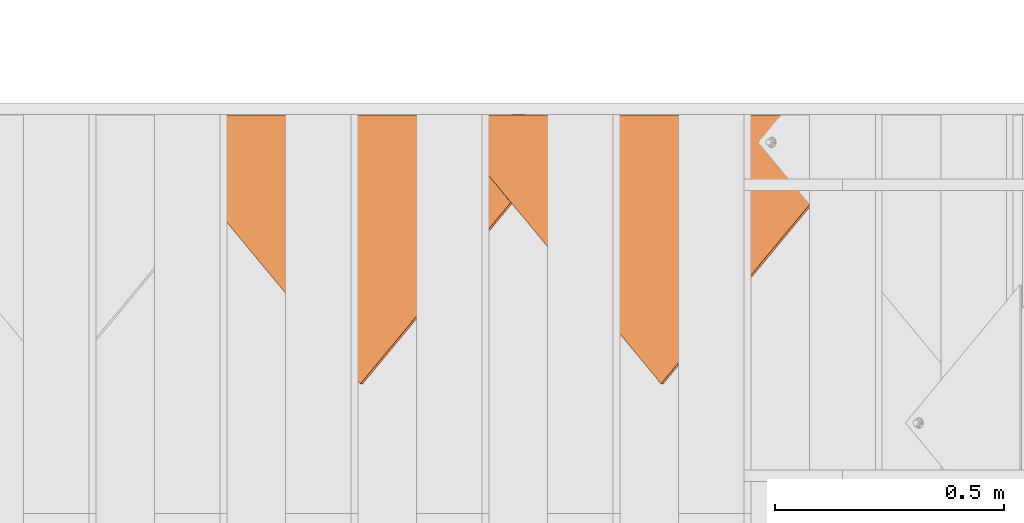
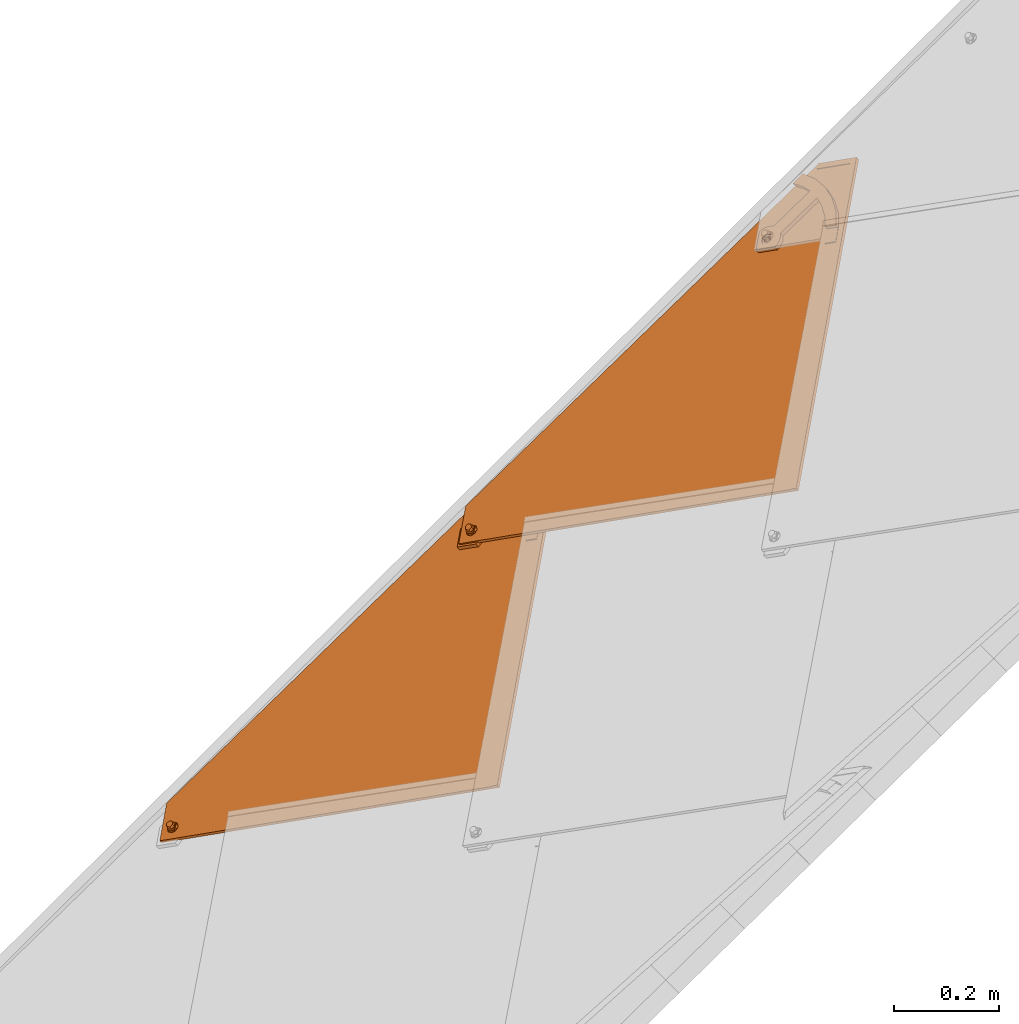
# One storey, part 84 of 133: 2 proxies.
"""IFC2X3 building model written with IfcOpenShell, lengths in millimetres."""

from ifc_helpers import new_model, entity, si_unit, converted_unit, derived_unit, direction, frame, origin, place, context, subcontext, project, spatial, faceted_brep, source, transform, mapped, material, material_list, type_object, type_shapes, element, save


model = new_model("IFC2X3")

# Units and contexts
model_context = context("Model", 3, precision=0.01, world=origin(), true_north=direction((6.12303176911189e-17, 1.0)))
body_context = subcontext(model_context, "Body", "Model", "MODEL_VIEW")
ifc_project = project(units=[si_unit("LENGTHUNIT", "METRE", prefix="MILLI"), si_unit("AREAUNIT", "SQUARE_METRE"), si_unit("VOLUMEUNIT", "CUBIC_METRE"), converted_unit("PLANEANGLEUNIT", "DEGREE", entity("IfcRatioMeasure", 0.0174532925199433), si_unit("PLANEANGLEUNIT", "RADIAN"), dimensions=[0, 0, 0, 0, 0, 0, 0]), si_unit("MASSUNIT", "GRAM", prefix="KILO"), derived_unit("MASSDENSITYUNIT", [(si_unit("MASSUNIT", "GRAM", prefix="KILO"), 1), (si_unit("LENGTHUNIT", "METRE"), -3)]), si_unit("TIMEUNIT", "SECOND"), si_unit("FREQUENCYUNIT", "HERTZ"), si_unit("THERMODYNAMICTEMPERATUREUNIT", "DEGREE_CELSIUS"), derived_unit("THERMALTRANSMITTANCEUNIT", [(si_unit("MASSUNIT", "GRAM", prefix="KILO"), 1), (si_unit("THERMODYNAMICTEMPERATUREUNIT", "KELVIN"), -1), (si_unit("TIMEUNIT", "SECOND"), -3)]), derived_unit("VOLUMETRICFLOWRATEUNIT", [(si_unit("LENGTHUNIT", "METRE"), 3), (si_unit("TIMEUNIT", "SECOND"), -1)]), si_unit("ELECTRICCURRENTUNIT", "AMPERE"), si_unit("ELECTRICVOLTAGEUNIT", "VOLT"), si_unit("POWERUNIT", "WATT"), si_unit("FORCEUNIT", "NEWTON", prefix="KILO"), si_unit("ILLUMINANCEUNIT", "LUX"), si_unit("LUMINOUSFLUXUNIT", "LUMEN"), si_unit("LUMINOUSINTENSITYUNIT", "CANDELA"), derived_unit("USERDEFINED", [(si_unit("MASSUNIT", "GRAM", prefix="KILO"), -1), (si_unit("LENGTHUNIT", "METRE"), -2), (si_unit("TIMEUNIT", "SECOND"), 3), (si_unit("LUMINOUSFLUXUNIT", "LUMEN"), 1)]), derived_unit("LINEARVELOCITYUNIT", [(si_unit("LENGTHUNIT", "METRE"), 1), (si_unit("TIMEUNIT", "SECOND"), -1)]), si_unit("PRESSUREUNIT", "PASCAL"), derived_unit("USERDEFINED", [(si_unit("LENGTHUNIT", "METRE"), -2), (si_unit("MASSUNIT", "GRAM", prefix="KILO"), 1), (si_unit("TIMEUNIT", "SECOND"), -2)])], contexts=[model_context])

# Site, building, storey
site_placement = place(None, origin())
site = spatial("IfcSite", under=ifc_project, at=site_placement, Name="Default", CompositionType="ELEMENT")
building_placement = place(site_placement, origin())
building = spatial("IfcBuilding", under=site, at=building_placement, CompositionType="ELEMENT")
storey_placement = place(building_placement, origin())
storey = spatial("IfcBuildingStorey", under=building, at=storey_placement, Name="Level 1", CompositionType="ELEMENT", Elevation=0.0)

# Proxies
ifc_material_1 = material(Name="Rubber - Sunstyle - Black")
ifc_material_2 = material(Name="Glass - Sunstyle - Tainted Black")
ifc_material_list_1 = material_list([ifc_material_1, ifc_material_2])
ifc_material_list_2 = material_list([ifc_material_1, ifc_material_2])
building_element_proxy_type = type_object("IfcBuildingElementProxyType", Name="Shingle Left - Black", PredefinedType="NOTDEFINED", material=ifc_material_list_2)
shared_shape = source(origin(), body_context, "Body", "Brep", [
    faceted_brep([(0.0, -484.792260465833, 4.00636906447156), (-5.77420283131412, -488.125530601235, 4.06219304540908), (-5.77420283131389, -487.757221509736, 26.0540623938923), (0.0, -484.423951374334, 25.9982384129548), (-5.77420283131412, -494.792070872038, 4.17384100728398), (-5.7742028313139, -494.42376178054, 26.1657103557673), (0.0, -498.12534100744, 4.22966498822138), (0.0, -497.757031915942, 26.2215343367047), (5.77420283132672, -494.792070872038, 4.17384100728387), (5.77420283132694, -494.42376178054, 26.1657103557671), (5.77420283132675, -488.125530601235, 4.06219304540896), (5.77420283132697, -487.757221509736, 26.0540623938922), (-8.60370416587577, -499.692989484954, 26.2539568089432), (0.0, -503.256260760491, 26.3136327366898), (-12.1674751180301, -491.090491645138, 26.1098863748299), (-8.60370416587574, -482.487993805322, 25.9658159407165), (0.0, -478.924722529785, 25.9061400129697), (8.60370416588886, -482.487993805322, 25.9658159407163), (12.1674751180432, -491.090491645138, 26.1098863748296), (8.60370416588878, -499.692989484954, 26.253956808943), (-11.324244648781, -488.795414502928, 28.4227283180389), (-9.75647455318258, -491.019476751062, 30.3502110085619), (0.0, -483.706401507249, 30.9829114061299), (0.0, -482.465903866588, 30.4025647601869), (0.0, -480.308353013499, 29.3931896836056), (0.0, -502.700216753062, 27.5886907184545), (0.0, -501.756640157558, 29.7523951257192), (0.0, -498.307264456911, 31.2274395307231), (0.0, -479.437758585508, 27.1991024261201), (-6.32324569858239, -494.657048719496, 31.1663074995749), (-6.32324569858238, -487.356617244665, 31.0440434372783), (11.3242446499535, -493.306834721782, 28.498283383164), (9.84888015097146, -492.093883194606, 30.2713428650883), (6.32324569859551, -487.356617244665, 31.0440434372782), (6.32324569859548, -494.657048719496, 31.1663074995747), (-6.32324569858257, -494.523020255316, 39.1691956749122), (0.0, -498.173235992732, 39.2303277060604), (0.0, -490.8728045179, 39.1080636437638), (-6.32324569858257, -487.222588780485, 39.0469316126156), (6.32324569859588, -494.523020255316, 39.1691956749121), (6.32324569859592, -487.222588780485, 39.0469316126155), (0.0, -483.572373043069, 38.9857995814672), (0.0, -491.458800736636, 4.11801702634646)], [[[0, 1, 2, 3]], [[1, 4, 5, 2]], [[4, 6, 7, 5]], [[6, 8, 9, 7]], [[8, 10, 11, 9]], [[10, 0, 3, 11]], [[12, 7, 13]], [[7, 12, 5]], [[14, 5, 12]], [[5, 14, 2]], [[15, 2, 14]], [[3, 2, 15]], [[15, 16, 3]], [[16, 17, 3]], [[11, 3, 17]], [[11, 17, 18]], [[9, 11, 18]], [[18, 19, 9]], [[7, 9, 19]], [[19, 13, 7]], [[20, 14, 12]], [[21, 22, 23, 24]], [[24, 20, 21]], [[25, 20, 12]], [[26, 27, 21]], [[15, 14, 20]], [[12, 13, 25]], [[20, 28, 15]], [[28, 20, 24]], [[21, 27, 29]], [[21, 29, 30]], [[26, 21, 20]], [[20, 25, 26]], [[15, 28, 16]], [[21, 30, 22]], [[31, 18, 17]], [[28, 31, 17]], [[32, 27, 26]], [[26, 31, 32]], [[26, 25, 31]], [[25, 19, 31]], [[17, 16, 28]], [[31, 19, 18]], [[24, 31, 28]], [[33, 34, 32]], [[23, 22, 33]], [[24, 32, 31]], [[27, 32, 34]], [[32, 23, 33]], [[19, 25, 13]], [[32, 24, 23]], [[35, 36, 37]], [[37, 38, 35]], [[36, 39, 37]], [[40, 37, 39]], [[37, 40, 41]], [[37, 41, 38]], [[42, 6, 4]], [[4, 1, 42]], [[1, 0, 42]], [[42, 8, 6]], [[0, 10, 42]], [[8, 42, 10]], [[22, 30, 38, 41]], [[30, 29, 35, 38]], [[29, 27, 36, 35]], [[27, 34, 39, 36]], [[34, 33, 40, 39]], [[33, 22, 41, 40]]]),
    faceted_brep([(0.0, 284.339364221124, 20.2838091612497), (0.0, 288.838732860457, 20.2084559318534), (-8.60370416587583, 287.902635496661, 20.224133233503), (8.60370416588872, 287.902635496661, 20.2241332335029), (6.64022859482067, 292.671933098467, 20.1442593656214), (12.1674751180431, 296.505133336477, 20.0800627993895), (6.64022859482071, 300.338333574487, 20.0158662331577), (8.6037041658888, 305.107631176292, 19.9359923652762), (0.0, 304.171533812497, 19.9516696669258), (0.0, 308.670902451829, 19.8763164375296), (-8.60370416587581, 305.107631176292, 19.9359923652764), (-6.64022859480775, 300.338333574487, 20.0158662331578), (-12.1674751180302, 296.505133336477, 20.0800627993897), (-6.64022859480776, 292.671933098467, 20.1442593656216), (-6.64022823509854, 300.070410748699, 4.01810959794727), (0.0, 303.90361077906, 3.95391303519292), (-6.64022823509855, 292.404010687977, 4.14650272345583), (0.0, 288.570810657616, 4.21069928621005), (6.64022823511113, 292.404010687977, 4.1465027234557), (6.64022823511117, 300.070410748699, 4.01810959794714), (-8.603704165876, 287.634712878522, 4.22637659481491), (0.0, 284.071441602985, 4.28605252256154), (-12.1674751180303, 296.237210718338, 4.08230616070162), (-8.60370416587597, 304.839708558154, 3.93823572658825), (0.0, 308.402979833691, 3.87855979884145), (8.60370416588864, 304.839708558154, 3.93823572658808), (12.1674751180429, 296.237210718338, 4.08230616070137), (8.60370416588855, 287.634712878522, 4.22637659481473)], [[[0, 1, 2]], [[1, 0, 3]], [[3, 4, 1]], [[4, 3, 5]], [[6, 4, 5]], [[5, 7, 6]], [[7, 8, 6]], [[8, 7, 9]], [[8, 9, 10]], [[10, 11, 8]], [[12, 11, 10]], [[2, 13, 12]], [[12, 13, 11]], [[13, 2, 1]], [[8, 11, 14, 15]], [[11, 13, 16, 14]], [[13, 1, 17, 16]], [[1, 4, 18, 17]], [[4, 6, 19, 18]], [[6, 8, 15, 19]], [[20, 17, 21]], [[17, 20, 16]], [[22, 16, 20]], [[14, 16, 22]], [[23, 14, 22]], [[15, 14, 23]], [[23, 24, 15]], [[24, 25, 15]], [[19, 15, 25]], [[19, 25, 26]], [[26, 18, 19]], [[26, 27, 18]], [[17, 18, 27]], [[27, 21, 17]], [[24, 23, 10, 9]], [[10, 23, 22, 12]], [[20, 21, 0, 2]], [[20, 2, 12, 22]], [[21, 27, 3, 0]], [[3, 27, 26, 5]], [[25, 24, 9, 7]], [[25, 7, 5, 26]]]),
    faceted_brep([(518.309865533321, -8.21171787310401, 16.4411500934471), (526.794551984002, 0.272968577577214, 16.299052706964), (526.794551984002, 0.298086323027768, 17.798842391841), (518.309865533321, -8.18660012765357, 17.9409397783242), (0.0, 509.952813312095, 7.76318349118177), (-51.6190674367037, 458.348219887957, 8.62743202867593), (-60.1037538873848, 466.832906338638, 8.48533464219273), (0.0, 526.919807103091, 7.47902856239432), (0.0, 526.944924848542, 8.97881824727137), (-60.1037538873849, 466.858024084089, 9.98512432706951), (-51.6190674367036, 458.373337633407, 10.1272217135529), (0.0, 509.977931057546, 9.26297317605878)], [[[0, 1, 2, 3]], [[1, 0, 4, 5, 6, 7]], [[2, 1, 7, 8]], [[3, 2, 8, 9, 10, 11]], [[0, 3, 11, 4]], [[5, 10, 9, 6]], [[8, 7, 6, 9]], [[4, 11, 10, 5]]]),
    faceted_brep([(3.08877637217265, 308.328619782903, 11.1398870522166), (0.0, 526.91980710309, 7.47902856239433), (-60.1037538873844, 466.832906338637, 8.48533464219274), (5.98294783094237, 307.129982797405, 11.1599612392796), (-0.0170521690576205, 308.737452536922, 11.133040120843), (8.46822920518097, 305.223226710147, 11.1918946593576), (10.3752526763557, 302.738293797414, 11.2335111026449), (11.5740577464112, 299.844528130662, 11.2819744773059), (526.794551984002, 0.272968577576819, 16.299052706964), (11.9829478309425, 296.739135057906, 11.3339820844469), (11.5740577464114, 293.63374198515, 11.3859896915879), (10.3752526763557, 290.739976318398, 11.4344530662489), (8.46822920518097, 288.255043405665, 11.4760695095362), (5.9829478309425, 286.348287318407, 11.5080029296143), (3.08877637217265, 285.149650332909, 11.5280771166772), (2.03352718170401, -483.329519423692, 24.3981910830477), (-60.1037538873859, -466.286969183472, 24.112770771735), (-0.0170521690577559, 284.74081757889, 11.5349240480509), (-3.12288071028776, 285.149650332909, 11.5280771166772), (-6.01705216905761, 286.348287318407, 11.5080029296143), (-8.50233354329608, 288.255043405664, 11.4760695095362), (-10.409357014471, 290.739976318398, 11.4344530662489), (-11.6081620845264, 293.63374198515, 11.3859896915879), (-12.0170521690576, 296.739135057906, 11.3339820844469), (-11.6081620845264, 299.844528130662, 11.2819744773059), (-10.4093570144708, 302.738293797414, 11.2335111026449), (-8.50233354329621, 305.223226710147, 11.1918946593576), (-6.01705216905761, 307.129982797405, 11.1599612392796), (-3.12288071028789, 308.328619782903, 11.1398870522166), (-0.0370251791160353, -483.056964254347, 24.3936264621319), (-2.10757753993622, -483.329519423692, 24.3981910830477), (-4.03702517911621, -484.128610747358, 24.411573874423), (-5.69387942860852, -485.399781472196, 24.4328628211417), (-6.96522840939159, -487.056403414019, 24.4606071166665), (-7.76443178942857, -488.985580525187, 24.4929160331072), (-8.03702517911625, -491.055842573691, 24.5275877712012), (-7.76443178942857, -493.126104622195, 24.5622595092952), (-6.96522840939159, -495.055281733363, 24.5945684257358), (0.0, -526.373869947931, 25.1190768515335), (-5.69387942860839, -496.711903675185, 24.6223127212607), (-4.03702517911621, -497.983074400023, 24.6436016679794), (-2.10757753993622, -498.782165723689, 24.6569844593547), (-0.0370251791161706, -499.054720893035, 24.6615490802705), (2.03352718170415, -498.782165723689, 24.6569844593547), (3.96297482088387, -497.983074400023, 24.6436016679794), (5.61982907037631, -496.711903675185, 24.6223127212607), (6.89117805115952, -495.055281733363, 24.5945684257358), (7.6903814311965, -493.126104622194, 24.5622595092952), (3.96297482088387, -484.128610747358, 24.411573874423), (5.61982907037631, -485.399781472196, 24.4328628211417), (6.89117805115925, -487.056403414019, 24.4606071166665), (7.6903814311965, -488.985580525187, 24.4929160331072), (7.96297482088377, -491.055842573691, 24.5275877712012), (-60.1037538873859, -466.412557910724, 16.6138223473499), (-6.96522840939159, -487.181992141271, 16.9616586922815), (-7.7644317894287, -489.111169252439, 16.9939676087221), (-5.69387942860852, -485.525370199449, 16.9339143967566), (-8.03702517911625, -491.181431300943, 17.0286393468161), (-7.76443178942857, -493.251693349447, 17.0633110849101), (-6.96522840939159, -495.180870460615, 17.0956200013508), (0.0, -526.499458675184, 17.6201284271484), (-4.03702517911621, -484.254199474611, 16.9126254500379), (-2.10757753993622, -483.455108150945, 16.8992426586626), (-0.0370251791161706, -483.182552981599, 16.8946780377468), (2.03352718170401, -483.455108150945, 16.8992426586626), (3.08877637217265, 285.024061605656, 4.02912869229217), (-0.0170521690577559, 284.615228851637, 4.03597562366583), (-3.12288071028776, 285.024061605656, 4.02912869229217), (-6.01705216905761, 286.222698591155, 4.00905450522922), (-8.50233354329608, 288.129454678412, 3.97712108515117), (-10.409357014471, 290.614387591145, 3.93550464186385), (-11.6081620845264, 293.508153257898, 3.88704126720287), (-60.1037538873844, 466.707317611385, 0.986386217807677), (-12.0170521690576, 296.613546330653, 3.83503366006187), (-11.6081620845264, 299.718939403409, 3.78302605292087), (-10.4093570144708, 302.612705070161, 3.73456267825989), (-8.50233354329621, 305.097637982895, 3.69294623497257), (-6.01705216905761, 307.004394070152, 3.66101281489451), (-3.12288071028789, 308.203031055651, 3.64093862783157), (-0.0170521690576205, 308.61186380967, 3.63409169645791), (3.08877637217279, 308.203031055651, 3.64093862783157), (0.0, 526.794218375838, -0.0199198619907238), (5.98294783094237, 307.004394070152, 3.66101281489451), (8.46822920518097, 305.097637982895, 3.69294623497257), (10.3752526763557, 302.612705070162, 3.73456267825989), (11.5740577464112, 299.718939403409, 3.78302605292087), (526.794551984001, 0.147379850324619, 8.8001042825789), (3.96297482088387, -484.254199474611, 16.9126254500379), (5.61982907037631, -485.525370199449, 16.9339143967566), (7.6903814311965, -493.251693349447, 17.0633110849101), (7.96297482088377, -491.181431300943, 17.0286393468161), (7.6903814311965, -489.111169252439, 16.9939676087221), (6.89117805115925, -487.181992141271, 16.9616586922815), (5.9829478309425, 286.222698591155, 4.00905450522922), (8.46822920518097, 288.129454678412, 3.97712108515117), (11.9829478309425, 296.613546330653, 3.83503366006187), (11.5740577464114, 293.508153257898, 3.88704126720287), (10.3752526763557, 290.614387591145, 3.93550464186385), (-5.69387942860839, -496.837492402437, 17.1233642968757), (-4.03702517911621, -498.108663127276, 17.1446532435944), (-2.10757753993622, -498.907754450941, 17.1580360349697), (-0.0370251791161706, -499.180309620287, 17.1626006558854), (2.03352718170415, -498.907754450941, 17.1580360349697), (3.96297482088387, -498.108663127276, 17.1446532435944), (5.61982907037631, -496.837492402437, 17.1233642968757), (6.89117805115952, -495.180870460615, 17.0956200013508)], [[[0, 1, 2]], [[0, 3, 1]], [[4, 0, 2]], [[1, 3, 5]], [[6, 1, 5]], [[7, 1, 6]], [[7, 8, 1]], [[9, 8, 7]], [[8, 9, 10]], [[8, 10, 11]], [[11, 12, 8]], [[12, 13, 8]], [[13, 14, 8]], [[14, 15, 8]], [[14, 16, 15]], [[16, 14, 17]], [[16, 17, 18]], [[16, 18, 19]], [[20, 16, 19]], [[20, 21, 16]], [[21, 22, 16]], [[23, 2, 22]], [[2, 16, 22]], [[23, 24, 2]], [[25, 2, 24]], [[25, 26, 2]], [[26, 27, 2]], [[28, 2, 27]], [[4, 2, 28]], [[16, 29, 15]], [[29, 16, 30]], [[30, 16, 31]], [[16, 32, 31]], [[32, 16, 33]], [[33, 16, 34]], [[35, 34, 16]], [[35, 16, 36]], [[37, 36, 16]], [[16, 38, 37]], [[39, 37, 38]], [[40, 39, 38]], [[41, 40, 38]], [[38, 42, 41]], [[42, 38, 43]], [[44, 43, 38]], [[44, 38, 45]], [[46, 45, 38]], [[47, 46, 38]], [[47, 38, 8]], [[48, 8, 15]], [[48, 49, 8]], [[50, 8, 49]], [[51, 8, 50]], [[52, 47, 8]], [[52, 8, 51]], [[53, 54, 55]], [[54, 53, 56]], [[53, 55, 57]], [[57, 58, 53]], [[58, 59, 53]], [[53, 59, 60]], [[61, 56, 53]], [[62, 61, 53]], [[62, 53, 63]], [[64, 63, 53]], [[53, 65, 64]], [[65, 53, 66]], [[66, 53, 67]], [[67, 53, 68]], [[69, 68, 53]], [[70, 69, 53]], [[71, 70, 53]], [[71, 53, 72]], [[73, 71, 72]], [[74, 73, 72]], [[75, 74, 72]], [[76, 75, 72]], [[72, 77, 76]], [[78, 77, 72]], [[79, 78, 72]], [[79, 72, 80]], [[80, 72, 81]], [[82, 80, 81]], [[81, 83, 82]], [[83, 81, 84]], [[84, 81, 85]], [[86, 85, 81]], [[64, 86, 87]], [[88, 87, 86]], [[60, 89, 86]], [[90, 86, 89]], [[90, 91, 86]], [[91, 92, 86]], [[88, 86, 92]], [[65, 86, 64]], [[65, 93, 86]], [[93, 94, 86]], [[86, 95, 85]], [[95, 86, 96]], [[97, 96, 86]], [[97, 86, 94]], [[98, 60, 59]], [[98, 99, 60]], [[99, 100, 60]], [[101, 60, 100]], [[60, 101, 102]], [[60, 102, 103]], [[103, 104, 60]], [[104, 105, 60]], [[105, 89, 60]], [[2, 1, 81, 72]], [[38, 16, 53, 60]], [[8, 38, 60, 86]], [[1, 8, 86, 81]], [[35, 57, 55, 34]], [[34, 55, 54, 33]], [[31, 32, 56, 61]], [[56, 32, 33, 54]], [[30, 31, 61, 62]], [[30, 62, 63, 29]], [[29, 63, 64, 15]], [[15, 64, 87, 48]], [[50, 49, 88, 92]], [[88, 49, 48, 87]], [[51, 50, 92, 91]], [[51, 91, 90, 52]], [[52, 90, 89, 47]], [[47, 89, 105, 46]], [[44, 45, 104, 103]], [[104, 45, 46, 105]], [[43, 44, 103, 102]], [[43, 102, 101, 42]], [[42, 101, 100, 41]], [[41, 100, 99, 40]], [[37, 39, 98, 59]], [[98, 39, 40, 99]], [[36, 37, 59, 58]], [[36, 58, 57, 35]], [[23, 73, 74, 24]], [[24, 74, 75, 25]], [[27, 26, 76, 77]], [[76, 26, 25, 75]], [[28, 27, 77, 78]], [[28, 78, 79, 4]], [[4, 79, 80, 0]], [[0, 80, 82, 3]], [[6, 5, 83, 84]], [[83, 5, 3, 82]], [[7, 6, 84, 85]], [[7, 85, 95, 9]], [[9, 95, 96, 10]], [[10, 96, 97, 11]], [[13, 12, 94, 93]], [[94, 12, 11, 97]], [[14, 13, 93, 65]], [[14, 65, 66, 17]], [[17, 66, 67, 18]], [[18, 67, 68, 19]], [[21, 20, 69, 70]], [[69, 20, 19, 68]], [[22, 21, 70, 71]], [[22, 71, 73, 23]], [[16, 2, 72, 53]]]),
    faceted_brep([(-60.2957264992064, 433.002673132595, 19.0533091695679), (-60.2957264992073, 406.276440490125, 19.5009070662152), (-37.4519584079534, 414.732964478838, 19.3592813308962), (-27.2461400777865, 442.315205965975, 18.8973474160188), (-13.4919726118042, 419.124350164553, 19.2857365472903), (7.02526451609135, 444.434715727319, 18.8618509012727), (13.1080273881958, 419.12435016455, 19.2857365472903), (13.1080273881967, 322.716549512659, 20.9003273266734), (-13.4919726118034, 322.716549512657, 20.9003273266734), (-0.191972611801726, 308.510747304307, 21.1382391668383), (-3.29780115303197, 308.101914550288, 21.145086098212), (-6.19197261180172, 306.90327756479, 21.1651602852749), (-18.8960787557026, 319.178501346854, 20.9595808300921), (-8.67725398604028, 304.996521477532, 21.197093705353), (-23.3966230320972, 314.545495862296, 21.0371721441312), (-10.584277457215, 302.511588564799, 21.2387101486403), (-26.776192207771, 309.041345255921, 21.1293529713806), (-11.7830825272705, 299.617822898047, 21.2871735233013), (-28.8715253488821, 302.931945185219, 21.231670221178), (-12.1919726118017, 296.512429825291, 21.3391811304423), (-29.5814006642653, 296.512429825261, 21.3391811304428), (-11.7830825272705, 293.407036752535, 21.3911887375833), (-10.5842774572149, 290.513271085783, 21.4396521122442), (-8.67725398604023, 288.028338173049, 21.4812685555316), (-0.191972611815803, 267.127122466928, 21.8313119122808), (-6.19197261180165, 286.121582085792, 21.5132019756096), (-3.2978011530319, 284.922945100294, 21.5332761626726), (-0.19197261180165, 284.514112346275, 21.5401230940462), (2.9138559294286, 284.922945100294, 21.5332761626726), (5.80802738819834, 286.121582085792, 21.5132019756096), (8.29330876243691, 288.028338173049, 21.4812685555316), (29.197455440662, 296.512429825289, 21.3391811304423), (10.2003322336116, 290.513271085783, 21.4396521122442), (11.3991373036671, 293.407036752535, 21.3911887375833), (11.8080273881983, 296.512429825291, 21.3391811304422), (28.4875801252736, 302.931945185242, 21.2316702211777), (11.3991373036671, 299.617822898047, 21.2871735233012), (26.3922469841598, 309.041345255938, 21.1293529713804), (10.2003322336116, 302.511588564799, 21.2387101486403), (23.0126778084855, 314.545495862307, 21.037172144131), (8.29330876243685, 304.996521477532, 21.197093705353), (18.5121335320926, 319.178501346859, 20.959580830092), (5.80802738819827, 306.90327756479, 21.1651602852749), (2.91385592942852, 308.101914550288, 21.145086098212), (40.9707248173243, 439.265481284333, 18.9484227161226), (38.5777701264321, 414.309469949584, 19.3663738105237), (73.0571986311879, 427.0409551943, 19.1531531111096), (62.7323605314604, 404.905836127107, 19.523861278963), (84.7524233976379, 391.232440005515, 19.7528566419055), (101.835599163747, 408.313220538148, 19.4667960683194), (-10.5842774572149, 290.345819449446, 11.4410542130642), (-29.5814006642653, 296.344978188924, 11.3405832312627), (-11.7830825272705, 293.239585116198, 11.3925908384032), (-8.67725398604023, 287.860886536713, 11.4826706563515), (-0.191972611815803, 266.959670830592, 11.8327140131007), (-6.19197261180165, 285.954130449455, 11.5146040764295), (-3.2978011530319, 284.755493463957, 11.5346782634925), (-0.19197261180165, 284.346660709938, 11.5415251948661), (2.9138559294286, 284.755493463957, 11.5346782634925), (5.80802738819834, 285.954130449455, 11.5146040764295), (8.29330876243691, 287.860886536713, 11.4826706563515), (29.197455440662, 296.344978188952, 11.3405832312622), (10.2003322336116, 290.345819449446, 11.4410542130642), (11.3991373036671, 293.239585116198, 11.3925908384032), (11.8080273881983, 296.344978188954, 11.3405832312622), (28.4875801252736, 302.764493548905, 11.2330723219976), (11.3991373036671, 299.45037126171, 11.2885756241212), (26.3922469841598, 308.873893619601, 11.1307550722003), (10.2003322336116, 302.344136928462, 11.2401122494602), (23.0126778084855, 314.378044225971, 11.038574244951), (8.29330876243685, 304.829069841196, 11.1984958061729), (18.5121335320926, 319.011049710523, 10.960982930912), (5.80802738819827, 306.735825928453, 11.1665623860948), (13.1080273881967, 322.549097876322, 10.9017294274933), (2.91385592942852, 307.934462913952, 11.1464881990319), (-0.191972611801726, 308.34329566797, 11.1396412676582), (-13.4919726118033, 322.54909787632, 10.9017294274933), (-3.29780115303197, 307.934462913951, 11.1464881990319), (-6.19197261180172, 306.735825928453, 11.1665623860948), (-18.8960787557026, 319.011049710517, 10.9609829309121), (-8.67725398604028, 304.829069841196, 11.1984958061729), (-23.3966230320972, 314.37804422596, 11.0385742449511), (-10.584277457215, 302.344136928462, 11.2401122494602), (-26.776192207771, 308.873893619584, 11.1307550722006), (-11.7830825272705, 299.45037126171, 11.2885756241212), (-28.8715253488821, 302.764493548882, 11.233072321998), (-12.1919726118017, 296.344978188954, 11.3405832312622), (-13.4919726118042, 418.956898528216, 9.28713864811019), (13.1080273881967, 418.956898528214, 9.28713864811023), (7.02526451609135, 444.267264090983, 8.86325300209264), (-27.2461400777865, 442.147754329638, 8.89874951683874), (-37.4519584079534, 414.565512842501, 9.36068343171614), (-60.2957264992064, 432.835221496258, 9.05471127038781), (-60.2957264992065, 406.108988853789, 9.5023091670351), (40.9707248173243, 439.098029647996, 8.94982481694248), (38.5777701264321, 414.142018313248, 9.36777591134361), (73.0571986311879, 426.873503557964, 9.15455521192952), (62.7323605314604, 404.738384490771, 9.5252633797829), (84.9699227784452, 391.282457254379, 9.75061668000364), (101.363550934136, 407.672574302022, 9.47612300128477), (101.835599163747, 408.145768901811, 9.46819816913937), (107.666988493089, 402.274283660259, 9.56653093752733), (113.684870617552, 396.559480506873, 9.66223967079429), (108.027097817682, 368.228515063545, 10.1367128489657), (125.024248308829, 385.223282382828, 9.85209278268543), (84.7524233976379, 391.064988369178, 9.75425874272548), (125.024248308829, 385.265145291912, 12.3517422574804), (113.684870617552, 396.601343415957, 12.1618891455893), (107.666988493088, 402.316146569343, 12.0661804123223), (101.362944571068, 407.715043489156, 11.975762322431), (84.9693798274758, 391.324863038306, 12.2502570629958), (108.027097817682, 368.270377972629, 12.6363623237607)], [[[0, 1, 2]], [[0, 2, 3]], [[2, 4, 3]], [[3, 4, 5]], [[5, 4, 6]], [[7, 6, 4]], [[7, 4, 8]], [[9, 7, 8]], [[9, 8, 10]], [[10, 8, 11]], [[12, 11, 8]], [[11, 12, 13]], [[14, 13, 12]], [[13, 14, 15]], [[15, 14, 16]], [[17, 15, 16]], [[18, 17, 16]], [[18, 19, 17]], [[19, 18, 20]], [[20, 21, 19]], [[20, 22, 21]], [[22, 20, 23]], [[23, 20, 24]], [[24, 25, 23]], [[26, 25, 24]], [[24, 27, 26]], [[28, 27, 24]], [[28, 24, 29]], [[30, 29, 24]], [[30, 24, 31]], [[31, 32, 30]], [[33, 32, 31]], [[31, 34, 33]], [[35, 34, 31]], [[34, 35, 36]], [[36, 35, 37]], [[36, 37, 38]], [[38, 37, 39]], [[39, 40, 38]], [[39, 41, 40]], [[7, 42, 41]], [[40, 41, 42]], [[42, 7, 43]], [[43, 7, 9]], [[44, 5, 6]], [[44, 6, 45]], [[45, 46, 44]], [[46, 45, 47]], [[47, 48, 46]], [[49, 46, 48]], [[50, 51, 52]], [[51, 50, 53]], [[54, 51, 53]], [[53, 55, 54]], [[56, 54, 55]], [[57, 54, 56]], [[57, 58, 54]], [[58, 59, 54]], [[60, 54, 59]], [[60, 61, 54]], [[60, 62, 61]], [[62, 63, 61]], [[63, 64, 61]], [[64, 65, 61]], [[65, 64, 66]], [[66, 67, 65]], [[68, 67, 66]], [[67, 68, 69]], [[69, 68, 70]], [[71, 69, 70]], [[71, 70, 72]], [[72, 73, 71]], [[72, 74, 73]], [[75, 73, 74]], [[76, 73, 75]], [[77, 76, 75]], [[76, 77, 78]], [[79, 76, 78]], [[78, 80, 79]], [[81, 79, 80]], [[81, 80, 82]], [[81, 82, 83]], [[82, 84, 83]], [[84, 85, 83]], [[86, 85, 84]], [[52, 51, 86]], [[85, 86, 51]], [[73, 76, 87]], [[88, 73, 87]], [[88, 87, 89]], [[90, 89, 87]], [[87, 91, 90]], [[91, 92, 90]], [[93, 92, 91]], [[88, 89, 94]], [[88, 94, 95]], [[96, 95, 94]], [[96, 97, 95]], [[98, 97, 96]], [[96, 99, 98]], [[96, 100, 99]], [[98, 99, 101]], [[102, 98, 101]], [[98, 102, 103]], [[104, 103, 102]], [[105, 97, 98]], [[8, 4, 87, 76]], [[12, 8, 76, 79]], [[14, 12, 79, 81]], [[81, 83, 16, 14]], [[18, 16, 83, 85]], [[20, 18, 85, 51]], [[24, 20, 51, 54]], [[31, 24, 54, 61]], [[35, 31, 61, 65]], [[37, 35, 65, 67]], [[67, 69, 39, 37]], [[41, 39, 69, 71]], [[7, 41, 71, 73]], [[6, 7, 73, 88]], [[46, 49, 100, 96]], [[44, 46, 96, 94]], [[94, 89, 5, 44]], [[3, 5, 89, 90]], [[3, 90, 92, 0]], [[19, 86, 84, 17]], [[17, 84, 82, 15]], [[11, 13, 80, 78]], [[82, 80, 13, 15]], [[10, 11, 78, 77]], [[75, 9, 10, 77]], [[43, 74, 72, 42]], [[42, 72, 70, 40]], [[36, 38, 68, 66]], [[70, 68, 38, 40]], [[34, 36, 66, 64]], [[43, 9, 75, 74]], [[34, 64, 63, 33]], [[33, 63, 62, 32]], [[29, 30, 60, 59]], [[62, 60, 30, 32]], [[28, 29, 59, 58]], [[57, 27, 28, 58]], [[26, 56, 55, 25]], [[25, 55, 53, 23]], [[21, 22, 50, 52]], [[53, 50, 22, 23]], [[19, 21, 52, 86]], [[26, 27, 57, 56]], [[106, 107, 108, 109, 110, 111]], [[107, 106, 104, 102]], [[106, 111, 103, 104]], [[107, 102, 101, 108]], [[101, 99, 109]], [[101, 109, 108]], [[111, 110, 98, 103]], [[48, 110, 109]], [[110, 48, 105]], [[49, 48, 109, 100]], [[105, 98, 110]], [[99, 100, 109]], [[93, 91, 2, 1]], [[87, 4, 2, 91]], [[88, 95, 45, 6]], [[95, 97, 47, 45]], [[97, 105, 48, 47]], [[1, 0, 92, 93]]]),
])
type_shapes(building_element_proxy_type, [shared_shape])
proxy_1_placement = place(storey_placement, frame((21.05207302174, 3865.09519417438, 2000.2644971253), z_axis=(-0.57357643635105, 0.0, 0.819152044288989), x_axis=(0.0, -1.0, 0.0)))
element("IfcBuildingElementProxy", 1, at=proxy_1_placement, inside=storey, type_object=building_element_proxy_type, material=ifc_material_list_1, Name="Roofing_Panels_SunStyle_Tile_Shingle-Left:Shingle Left - Black", ObjectType="Roofing_Panels_SunStyle_Tile_Shingle-Left:Shingle Left - Black", context=body_context, shape_type="MappedRepresentation", body=[
    mapped(shared_shape, transform((0.0, 0.0, 0.0), scale=1.0)),
])
ifc_material_list_3 = material_list([ifc_material_1, ifc_material_2])
proxy_2_placement = place(storey_placement, frame((-634.269562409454, 3865.09519417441, 1541.40334804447), z_axis=(-0.57357643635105, 0.0, 0.819152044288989), x_axis=(0.0, -1.0, 0.0)))
element("IfcBuildingElementProxy", 2, at=proxy_2_placement, inside=storey, type_object=building_element_proxy_type, material=ifc_material_list_3, Name="Roofing_Panels_SunStyle_Tile_Shingle-Left:Shingle Left - Black", ObjectType="Roofing_Panels_SunStyle_Tile_Shingle-Left:Shingle Left - Black", context=body_context, shape_type="MappedRepresentation", body=[
    mapped(shared_shape, transform((0.0, 0.0, 0.0), scale=1.0)),
])

save(model, "model.ifc")
